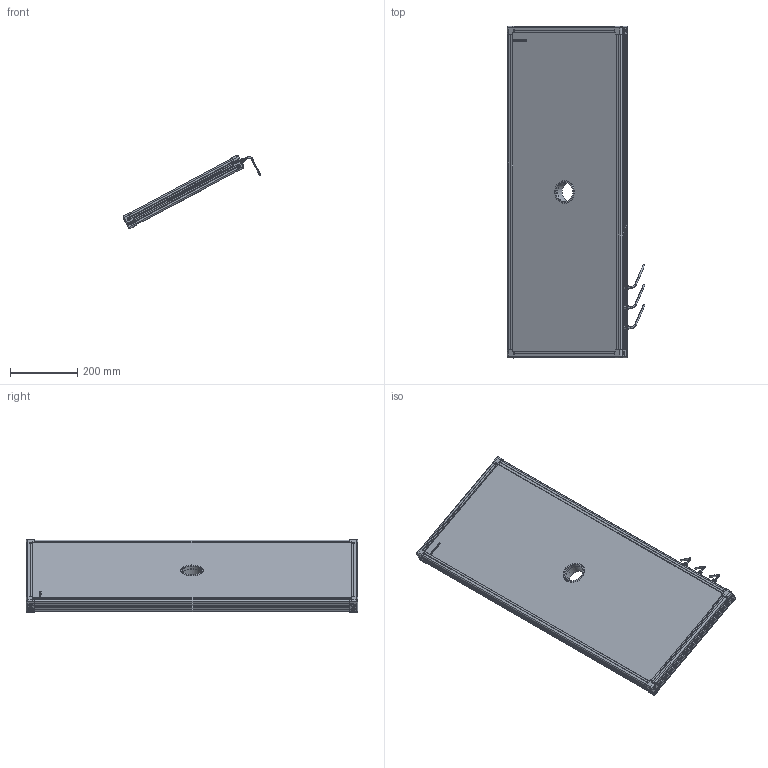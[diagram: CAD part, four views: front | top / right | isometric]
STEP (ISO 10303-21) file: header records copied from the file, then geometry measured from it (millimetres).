
FILE_DESCRIPTION (( 'STEP AP214' ), '1' );
FILE_NAME ('EFFI-BL-350-950-XXX-3M12.STEP', '2021-06-23T07:15:23', ( '' ), ( '' ), 'SwSTEP 2.0', 'SolidWorks 2021', '' );
FILE_SCHEMA (( 'AUTOMOTIVE_DESIGN' ));
Length unit declared in the file: millimetre
Products named in the file (13): profile Y_PERCE; petite joue + vis; profile X_PERCE; 000629; EFFI-BL-350-950-XXX-3M12; 000590; 001037; Assemblage Ø58.5; Pièce13^EFFI-BL-XXX-YYY-ZZZ (3 connecteurs) Ø58.5; petite joue; 001038; cordon_Avec cable
Assembly tree (21 placements, depth 3):
  EFFI-BL-350-950-XXX-3M12
    profile X_PERCE  x2
    profile Y_PERCE
    profile Y_PERCE
    Pièce13^EFFI-BL-XXX-YYY-ZZZ (3 connecteurs) Ø58.5
    petite joue + vis  x4
      petite joue
      000629
    Assemblage Ø58.5
      001037
      001038
      000590  x3
    cordon_Avec cable  x3
Bounding box: 410.42 x 989 x 217.5 mm (x, y, z)
Volume: 13243843.9 mm3; surface area: 1205564.5 mm2
Topology: 22 solids, 40 shells, 4123 faces, 10940 edges, 7177 vertices
Faces by surface type: plane 2536, cylinder 759, bspline 609, cone 156, torus 55, sphere 8
Entity records: 57210 total; most frequent: CARTESIAN_POINT 22824, ORIENTED_EDGE 7166, DIRECTION 5912, EDGE_CURVE 3587, VECTOR 2498, LINE 2498, VERTEX_POINT 2358, AXIS2_PLACEMENT_3D 1707
